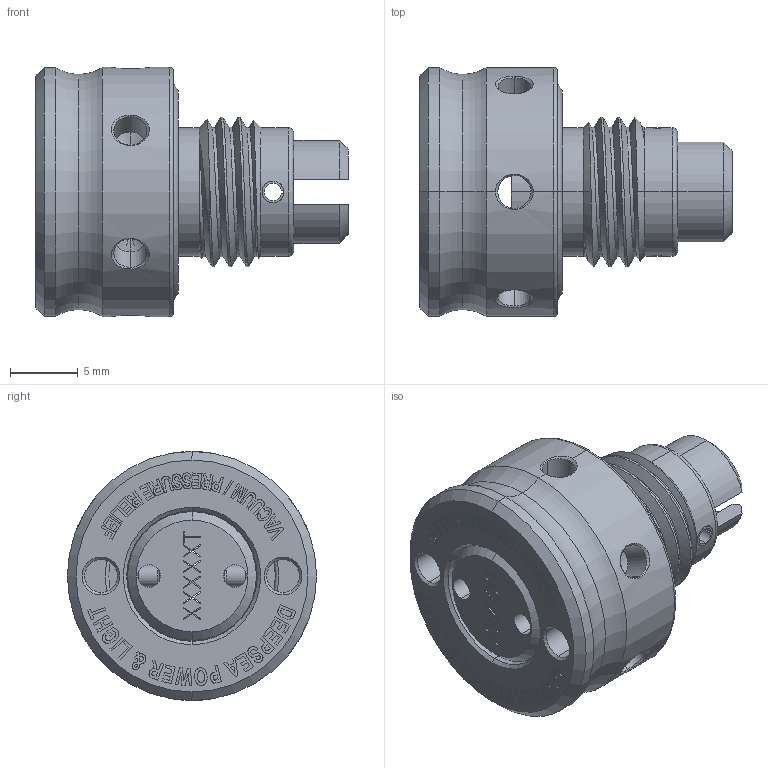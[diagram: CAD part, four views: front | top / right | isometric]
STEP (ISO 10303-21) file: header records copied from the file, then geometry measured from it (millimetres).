
FILE_DESCRIPTION (( 'STEP AP214' ), '1' );
FILE_NAME ('PRV-FaceSeal-0D-D-20140708a.STEP', '2014-07-08T20:41:54', ( '' ), ( '' ), 'SwSTEP 2.0', 'SolidWorks 2014', '' );
FILE_SCHEMA (( 'AUTOMOTIVE_DESIGN' ));
Length unit declared in the file: inch
Products named in the file (1): PRV-FaceSeal-0D-D-20140708a
Bounding box: 23.08 x 18.41 x 18.41 mm (x, y, z)
Surface area: 2755.5 mm2 (no closed solid volume)
Topology: 0 solids, 8 shells, 456 faces, 1954 edges, 1428 vertices
Faces by surface type: plane 249, bspline 87, cylinder 60, cone 44, torus 16
Entity records: 34527 total; most frequent: CARTESIAN_POINT 14319, ORIENTED_EDGE 2840, DIRECTION 2318, EDGE_CURVE 1946, VERTEX_POINT 1428, VECTOR 1262, LINE 1262, EDGE_LOOP 531
